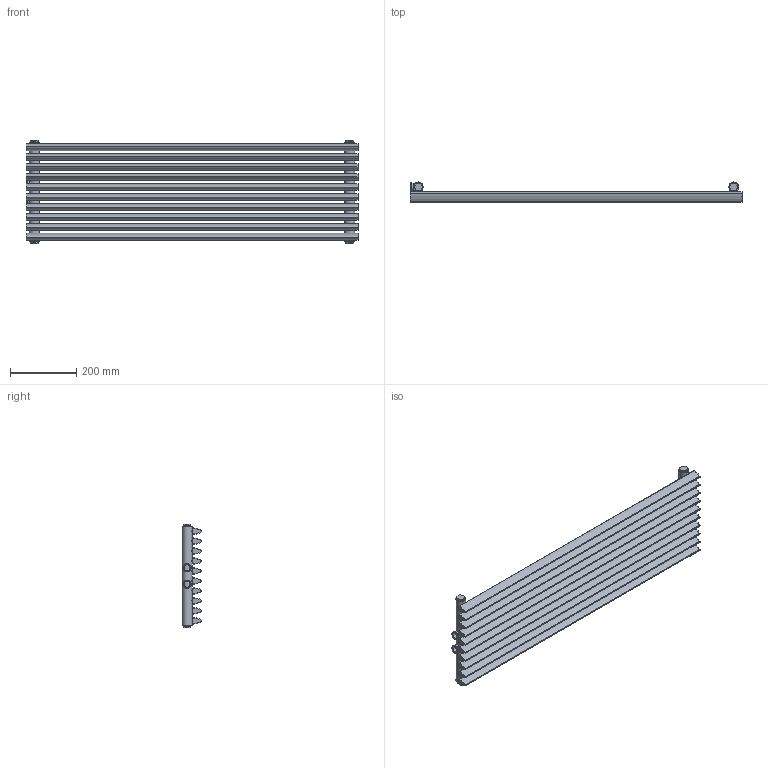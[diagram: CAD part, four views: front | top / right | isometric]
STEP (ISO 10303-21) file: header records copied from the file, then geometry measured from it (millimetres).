
FILE_DESCRIPTION(/* description */ (''),/* implementation_level */ '2;1');
FILE_NAME(/* name */ 'C:\Grzejniki\13DLUXRAD\pokojowe\AURORA\AURORA 1000x300.iam.stp',/* time_stamp */ '2016-06-28T17:31:30+02:00',/* author */ ('m.szydziak'),/* organization */ (''),/* preprocessor_version */ 'ST-DEVELOPER v16.5',/* originating_system */ 'Autodesk Inventor 2017',/* authorisation */ '');
FILE_SCHEMA (('AUTOMOTIVE_DESIGN { 1 0 10303 214 3 1 1 }'));
Length unit declared in the file: millimetre
Products named in the file (6): AURORA 1000x300; fi30x1,5x300; 30x20x1,2x1000; ZDC dzwonki; dzwonek G0,5inch; korek
Assembly tree (19 placements, depth 3):
  AURORA 1000x300
    fi30x1,5x300  x2
    30x20x1,2x1000  x10
    ZDC dzwonki
      dzwonek G0,5inch  x2
    korek  x4
Bounding box: 1000 x 59.99 x 312 mm (x, y, z)
Volume: 1014844.4 mm3; surface area: 1649861.1 mm2
Topology: 18 solids, 18 shells, 274 faces, 706 edges, 496 vertices
Faces by surface type: cylinder 158, plane 112, cone 2, bspline 2
Full cylindrical faces by diameter (mm): 5 x16, 6 x20, 16 x2, 18.5 x2, 18.631 x6, 22.9 x2, 24 x4, 25.3 x2, 27 x2, 30 x2
Entity records: 2577 total; most frequent: CARTESIAN_POINT 1006, DIRECTION 306, ORIENTED_EDGE 238, AXIS2_PLACEMENT_3D 136, EDGE_CURVE 119, EDGE_LOOP 107, VERTEX_POINT 96, FACE_OUTER_BOUND 58
